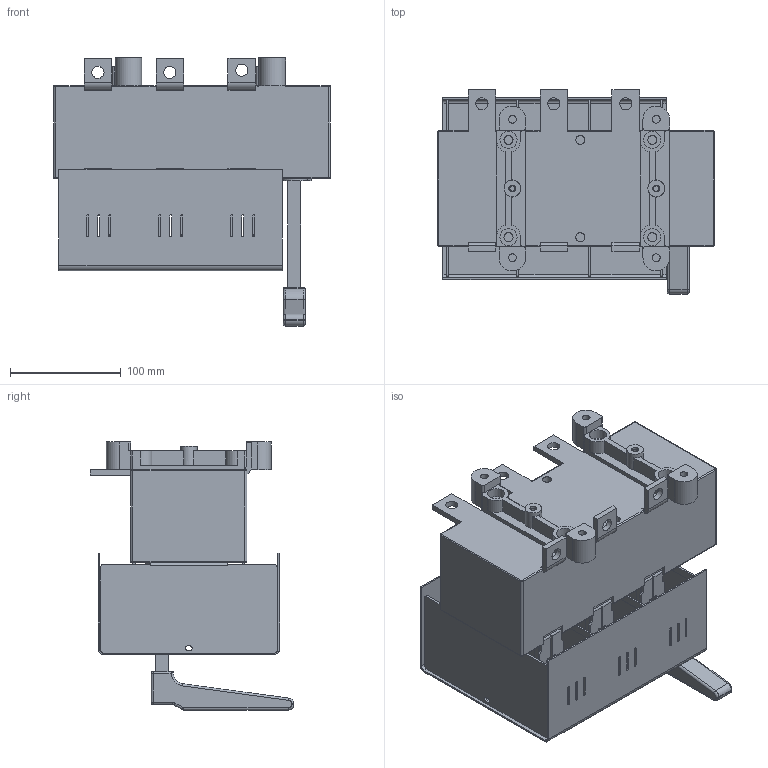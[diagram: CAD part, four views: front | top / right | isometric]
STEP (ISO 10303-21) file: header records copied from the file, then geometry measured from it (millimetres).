
FILE_DESCRIPTION(/* description */ (''),/* implementation_level */ '2;1');
FILE_NAME(/* name */ 'RAB 2 P3 A-R.stp',/* time_stamp */ '2021-08-19T13:41:20+02:00',/* author */ (''),/* organization */ (''),/* preprocessor_version */ 'ST-DEVELOPER v18.1',/* originating_system */ 'SIEMENS PLM Software NX 1965',/* authorisation */ '');
FILE_SCHEMA (('AUTOMOTIVE_DESIGN { 1 0 10303 214 3 1 1 1 }'));
Length unit declared in the file: millimetre
Products named in the file (1): RAB 2 P3 A-R_stp
Bounding box: 250 x 184.15 x 242.3 mm (x, y, z)
Volume: 2494709.2 mm3; surface area: 447335.8 mm2
Topology: 1 solids, 7 shells, 1161 faces, 3146 edges, 2026 vertices
Faces by surface type: plane 736, cylinder 403, torus 13, sphere 6, bspline 3
Full cylindrical faces by diameter (mm): 4.8 x2, 5.2 x18, 6.2 x2, 7 x4, 8.2 x6, 11 x6, 14 x4, 15 x2, 15.5 x4
Entity records: 36385 total; most frequent: CARTESIAN_POINT 6423, DIRECTION 6224, ORIENTED_EDGE 6176, EDGE_CURVE 3088, LINE 2242, VECTOR 2242, VERTEX_POINT 2022, AXIS2_PLACEMENT_3D 1991
